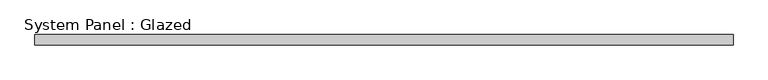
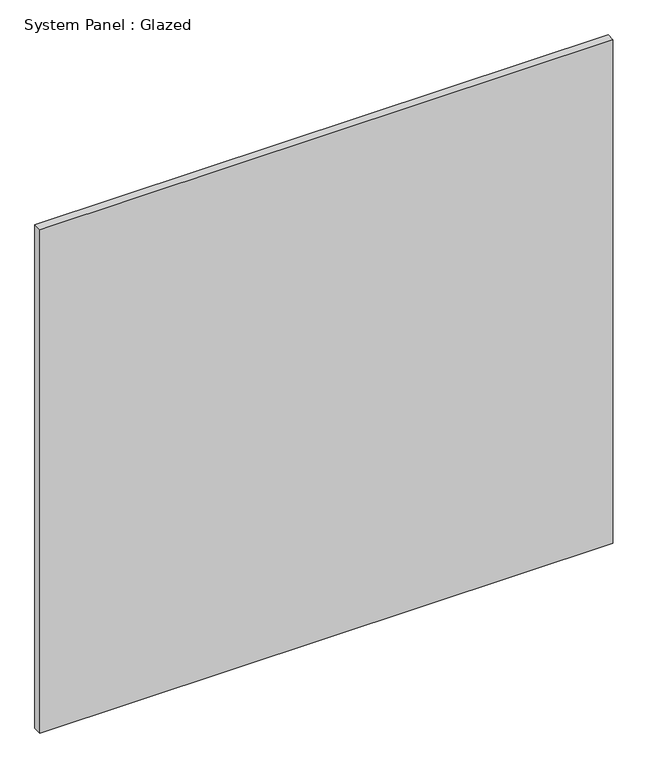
"""IFC4 building model written with IfcOpenShell, lengths in millimetres: plate geometry, System Panel : Glazed."""

from ifc_helpers import new_model, si_unit, origin, origin_with_axes, place, context, project, spatial, polyline, outline, extrude, source, transform, mapped, element, save


def system_panel_glazed_ed69608e(model_context):
    return source(origin(), model_context, "Body", "SweptSolid", [
        extrude(outline(polyline([(851.2699153, 19.05), (-851.2699153, 19.05), (-851.2699153, 44.45), (851.2699153, 44.45), (851.2699153, 19.05)])), origin_with_axes(), (0.0, 0.0, 1.0), 1581.15),
    ])


if __name__ == "__main__":
    model = new_model("IFC4")
    model_context = context("Model", 3, world=origin())
    ifc_project = project(units=[si_unit("LENGTHUNIT", "METRE", prefix="MILLI")], contexts=[model_context])
    site = spatial("IfcSite", under=ifc_project)
    building = spatial("IfcBuilding", under=site)
    placement = place(None, origin())
    system_panel_glazed_shape = system_panel_glazed_ed69608e(model_context)
    element("IfcPlate", 1, ObjectType="System Panel : Glazed", at=placement, inside=building, context=model_context, shape_type="MappedRepresentation", body=[
        mapped(system_panel_glazed_shape, transform((0.0, 0.0, 0.0), x_axis=(1.0, 0.0, 0.0), y_axis=(0.0, 1.0, 0.0), z_axis=(0.0, 0.0, 1.0))),
    ])
    save(model, "model.ifc")
